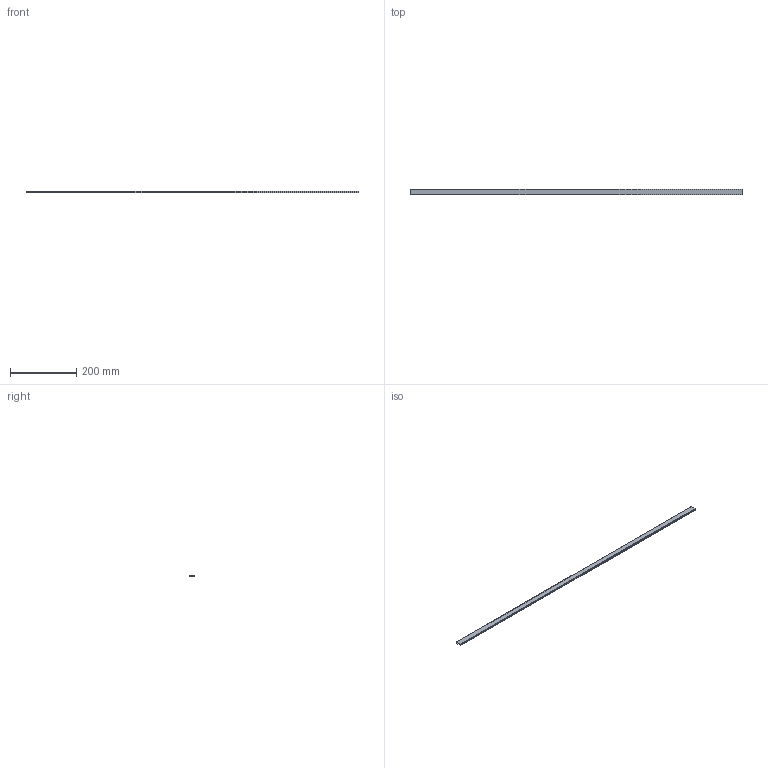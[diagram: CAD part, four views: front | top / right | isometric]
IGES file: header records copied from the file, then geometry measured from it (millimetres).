
Start section: SolidWorks IGES file using analytic representation for surfaces
Global section: file name: C:\Users\admin\Desktop\IGES\J3PNO.igs; native system: SolidWorks 2014; preprocessor: SolidWorks 2014; author: admin_pc; date: 170524.165545; units: millimetre
Bounding box: 1000 x 17 x 5.3 mm (x, y, z)
Surface area: 73478 mm2 (no closed solid volume)
Topology: 0 solids, 0 shells, 12 faces, 88 edges, 88 vertices
Faces by surface type: bspline 10, revolution 2
